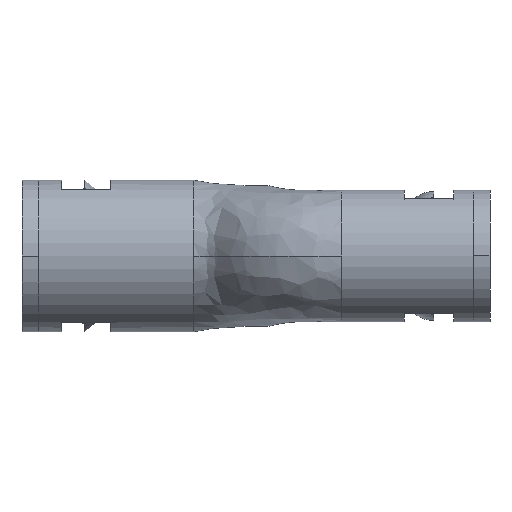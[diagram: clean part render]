
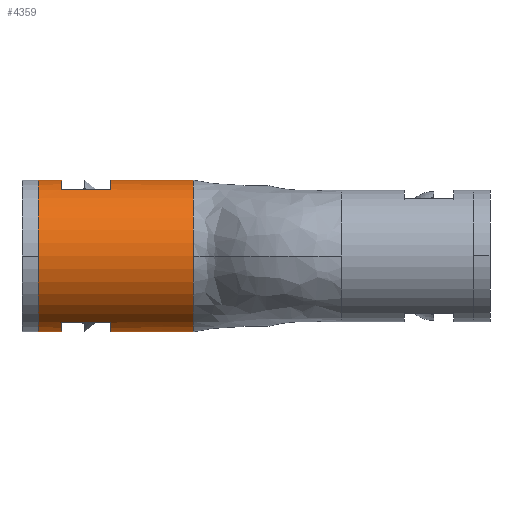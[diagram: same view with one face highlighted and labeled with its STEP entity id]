
A CAD part, left-side view. The second image highlights one B-rep face of the part: STEP entity #4359.
In plain terms, the highlighted cylindrical face has radius 11.5 mm (diameter 23 mm), a partial arc.
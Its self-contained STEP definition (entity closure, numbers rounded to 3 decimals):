
#167 = ORIENTED_EDGE ( 'NONE', *, *, #1294, .F. ) ;
#357 = DIRECTION ( 'NONE',  ( 0., 0., -1. ) ) ;
#429 = DIRECTION ( 'NONE',  ( 0., -1., 0. ) ) ;
#446 = ORIENTED_EDGE ( 'NONE', *, *, #7357, .T. ) ;
#453 = DIRECTION ( 'NONE',  ( 0., 1., 0. ) ) ;
#501 = EDGE_CURVE ( 'NONE', #4284, #3462, #1591, .T. ) ;
#517 = ORIENTED_EDGE ( 'NONE', *, *, #8796, .T. ) ;
#869 = VECTOR ( 'NONE', #10044, 1000. ) ;
#925 = DIRECTION ( 'NONE',  ( 0., 1., 0. ) ) ;
#974 = ORIENTED_EDGE ( 'NONE', *, *, #8737, .T. ) ;
#1294 = EDGE_CURVE ( 'NONE', #4817, #7657, #1886, .T. ) ;
#1324 = CARTESIAN_POINT ( 'NONE',  ( 0., 42.5, 11.5 ) ) ;
#1425 = AXIS2_PLACEMENT_3D ( 'NONE', #4687, #10185, #5481 ) ;
#1493 = EDGE_CURVE ( 'NONE', #8195, #4791, #9893, .T. ) ;
#1591 = LINE ( 'NONE', #5348, #869 ) ;
#1820 = EDGE_LOOP ( 'NONE', ( #167, #4512, #8236, #9142, #7071, #4818, #8201, #974, #7156, #4306, #517, #446 ) ) ;
#1886 = LINE ( 'NONE', #5625, #5829 ) ;
#1914 = CYLINDRICAL_SURFACE ( 'NONE', #4122, 11.5 ) ;
#2033 = VERTEX_POINT ( 'NONE', #8004 ) ;
#2078 = AXIS2_PLACEMENT_3D ( 'NONE', #5148, #429, #5921 ) ;
#2263 = EDGE_CURVE ( 'NONE', #2033, #5744, #3727, .T. ) ;
#2279 = CARTESIAN_POINT ( 'NONE',  ( 0., 42.5, 11.5 ) ) ;
#2346 = CIRCLE ( 'NONE', #5764, 11.5 ) ;
#2379 = CARTESIAN_POINT ( 'NONE',  ( 0., 55., -11.5 ) ) ;
#2396 = FACE_OUTER_BOUND ( 'NONE', #1820, .T. ) ;
#2661 = CARTESIAN_POINT ( 'NONE',  ( 0., 55., 0. ) ) ;
#2787 = DIRECTION ( 'NONE',  ( 0., -1., 0. ) ) ;
#3065 = CIRCLE ( 'NONE', #1425, 11.5 ) ;
#3155 = CIRCLE ( 'NONE', #6801, 11.5 ) ;
#3462 = VERTEX_POINT ( 'NONE', #6283 ) ;
#3478 = DIRECTION ( 'NONE',  ( 0., 0., -1. ) ) ;
#3577 = CARTESIAN_POINT ( 'NONE',  ( 0., 42.5, 0. ) ) ;
#3652 = DIRECTION ( 'NONE',  ( 0., -1., 0. ) ) ;
#3727 = LINE ( 'NONE', #8384, #9750 ) ;
#3797 = EDGE_CURVE ( 'NONE', #8195, #4817, #3155, .T. ) ;
#3936 = DIRECTION ( 'NONE',  ( 0., -1., 0. ) ) ;
#3940 = VECTOR ( 'NONE', #3936, 1000. ) ;
#3974 = CARTESIAN_POINT ( 'NONE',  ( -5.5, 42.5, -10.1 ) ) ;
#4122 = AXIS2_PLACEMENT_3D ( 'NONE', #3577, #10018, #5047 ) ;
#4127 = CARTESIAN_POINT ( 'NONE',  ( -5.5, 55., 10.1 ) ) ;
#4263 = VECTOR ( 'NONE', #453, 1000. ) ;
#4268 = CARTESIAN_POINT ( 'NONE',  ( -5.5, 55., -10.1 ) ) ;
#4284 = VERTEX_POINT ( 'NONE', #7393 ) ;
#4306 = ORIENTED_EDGE ( 'NONE', *, *, #7298, .F. ) ;
#4359 = ADVANCED_FACE ( 'NONE', ( #2396 ), #1914, .T. ) ;
#4382 = CARTESIAN_POINT ( 'NONE',  ( -5.5, 42.5, 10.1 ) ) ;
#4512 = ORIENTED_EDGE ( 'NONE', *, *, #3797, .F. ) ;
#4687 = CARTESIAN_POINT ( 'NONE',  ( 0., 66., 0. ) ) ;
#4791 = VERTEX_POINT ( 'NONE', #8030 ) ;
#4817 = VERTEX_POINT ( 'NONE', #5721 ) ;
#4818 = ORIENTED_EDGE ( 'NONE', *, *, #7421, .F. ) ;
#5047 = DIRECTION ( 'NONE',  ( 0., 0., 1. ) ) ;
#5072 = DIRECTION ( 'NONE',  ( 0., -1., 0. ) ) ;
#5102 = CARTESIAN_POINT ( 'NONE',  ( -5.5, 62.5, 10.1 ) ) ;
#5148 = CARTESIAN_POINT ( 'NONE',  ( 0., 55., 0. ) ) ;
#5179 = VERTEX_POINT ( 'NONE', #10143 ) ;
#5229 = DIRECTION ( 'NONE',  ( 0., 1., 0. ) ) ;
#5241 = CIRCLE ( 'NONE', #8196, 11.5 ) ;
#5348 = CARTESIAN_POINT ( 'NONE',  ( 0., 42.5, 11.5 ) ) ;
#5367 = CARTESIAN_POINT ( 'NONE',  ( 0., 66., -11.5 ) ) ;
#5481 = DIRECTION ( 'NONE',  ( 0., 0., -1. ) ) ;
#5590 = EDGE_CURVE ( 'NONE', #9671, #9001, #8665, .T. ) ;
#5625 = CARTESIAN_POINT ( 'NONE',  ( 0., 42.5, -11.5 ) ) ;
#5721 = CARTESIAN_POINT ( 'NONE',  ( 0., 42.5, -11.5 ) ) ;
#5744 = VERTEX_POINT ( 'NONE', #5367 ) ;
#5764 = AXIS2_PLACEMENT_3D ( 'NONE', #8378, #3652, #9156 ) ;
#5829 = VECTOR ( 'NONE', #925, 1000. ) ;
#5921 = DIRECTION ( 'NONE',  ( 0., 0., -1. ) ) ;
#5973 = EDGE_CURVE ( 'NONE', #4791, #9671, #5241, .T. ) ;
#6283 = CARTESIAN_POINT ( 'NONE',  ( 0., 66., 11.5 ) ) ;
#6801 = AXIS2_PLACEMENT_3D ( 'NONE', #7515, #2787, #8327 ) ;
#6848 = VERTEX_POINT ( 'NONE', #4268 ) ;
#7040 = CIRCLE ( 'NONE', #2078, 11.5 ) ;
#7071 = ORIENTED_EDGE ( 'NONE', *, *, #5590, .T. ) ;
#7156 = ORIENTED_EDGE ( 'NONE', *, *, #2263, .F. ) ;
#7298 = EDGE_CURVE ( 'NONE', #5179, #2033, #7531, .T. ) ;
#7357 = EDGE_CURVE ( 'NONE', #6848, #7657, #7040, .T. ) ;
#7393 = CARTESIAN_POINT ( 'NONE',  ( 0., 62.5, 11.5 ) ) ;
#7421 = EDGE_CURVE ( 'NONE', #4284, #9001, #2346, .T. ) ;
#7515 = CARTESIAN_POINT ( 'NONE',  ( 0., 42.5, 0. ) ) ;
#7531 = CIRCLE ( 'NONE', #9131, 11.5 ) ;
#7657 = VERTEX_POINT ( 'NONE', #2379 ) ;
#7804 = VECTOR ( 'NONE', #9205, 1000. ) ;
#8004 = CARTESIAN_POINT ( 'NONE',  ( 0., 62.5, -11.5 ) ) ;
#8030 = CARTESIAN_POINT ( 'NONE',  ( 0., 55., 11.5 ) ) ;
#8121 = LINE ( 'NONE', #3974, #3940 ) ;
#8191 = DIRECTION ( 'NONE',  ( 0., -1., 0. ) ) ;
#8195 = VERTEX_POINT ( 'NONE', #2279 ) ;
#8196 = AXIS2_PLACEMENT_3D ( 'NONE', #2661, #8191, #3478 ) ;
#8201 = ORIENTED_EDGE ( 'NONE', *, *, #501, .T. ) ;
#8236 = ORIENTED_EDGE ( 'NONE', *, *, #1493, .T. ) ;
#8327 = DIRECTION ( 'NONE',  ( 0., 0., -1. ) ) ;
#8378 = CARTESIAN_POINT ( 'NONE',  ( 0., 62.5, 0. ) ) ;
#8384 = CARTESIAN_POINT ( 'NONE',  ( 0., 42.5, -11.5 ) ) ;
#8665 = LINE ( 'NONE', #4382, #4263 ) ;
#8737 = EDGE_CURVE ( 'NONE', #3462, #5744, #3065, .T. ) ;
#8796 = EDGE_CURVE ( 'NONE', #5179, #6848, #8121, .T. ) ;
#9001 = VERTEX_POINT ( 'NONE', #5102 ) ;
#9131 = AXIS2_PLACEMENT_3D ( 'NONE', #9767, #5072, #357 ) ;
#9142 = ORIENTED_EDGE ( 'NONE', *, *, #5973, .T. ) ;
#9156 = DIRECTION ( 'NONE',  ( 0., 0., -1. ) ) ;
#9205 = DIRECTION ( 'NONE',  ( 0., 1., 0. ) ) ;
#9671 = VERTEX_POINT ( 'NONE', #4127 ) ;
#9750 = VECTOR ( 'NONE', #5229, 1000. ) ;
#9767 = CARTESIAN_POINT ( 'NONE',  ( 0., 62.5, 0. ) ) ;
#9893 = LINE ( 'NONE', #1324, #7804 ) ;
#10018 = DIRECTION ( 'NONE',  ( 0., 1., 0. ) ) ;
#10044 = DIRECTION ( 'NONE',  ( 0., 1., 0. ) ) ;
#10143 = CARTESIAN_POINT ( 'NONE',  ( -5.5, 62.5, -10.1 ) ) ;
#10185 = DIRECTION ( 'NONE',  ( 0., -1., 0. ) ) ;
